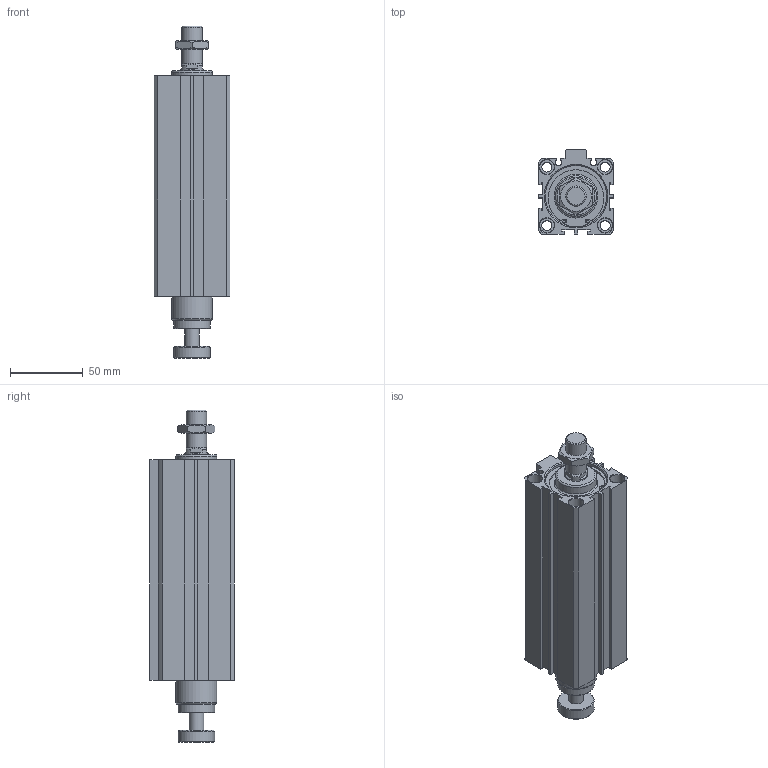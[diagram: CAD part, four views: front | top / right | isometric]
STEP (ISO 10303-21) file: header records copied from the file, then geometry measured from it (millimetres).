
FILE_DESCRIPTION((''),'2;1');
FILE_NAME('I:\3D電子目錄\氣缸\JDAR\JDAR-BS\JDAR40-BS\JDAR40x115-BS.stp','2007-05-05T14:15:13',('662F206'),(''),'Autodesk Inventor 11','Autodesk Inventor 11','');
FILE_SCHEMA(('AUTOMOTIVE_DESIGN { 1 0 10303 214 1 1 1 1 }'));
Length unit declared in the file: millimetre
Products named in the file (3): JDAR40-BS; R 形環 42
Assembly tree (3 placements, depth 2):
  JDAR40-BS
    JDAR40-BS
    R 形環 42  x2
Bounding box: 52 x 58 x 227.8 mm (x, y, z)
Volume: 386664.2 mm3; surface area: 73687.1 mm2
Topology: 3 solids, 3 shells, 179 faces, 418 edges, 271 vertices
Faces by surface type: plane 100, cylinder 50, cone 25, bspline 2, torus 2
Full cylindrical faces by diameter (mm): 1.9 x4, 2.2 x2, 6.8 x4, 10 x9, 14 x2, 16 x1, 25 x2, 28 x2, 42 x4, 44.5 x2
Entity records: 4585 total; most frequent: CARTESIAN_POINT 873, DIRECTION 770, ORIENTED_EDGE 654, EDGE_CURVE 327, AXIS2_PLACEMENT_3D 292, EDGE_LOOP 260, VERTEX_POINT 245, VECTOR 186
